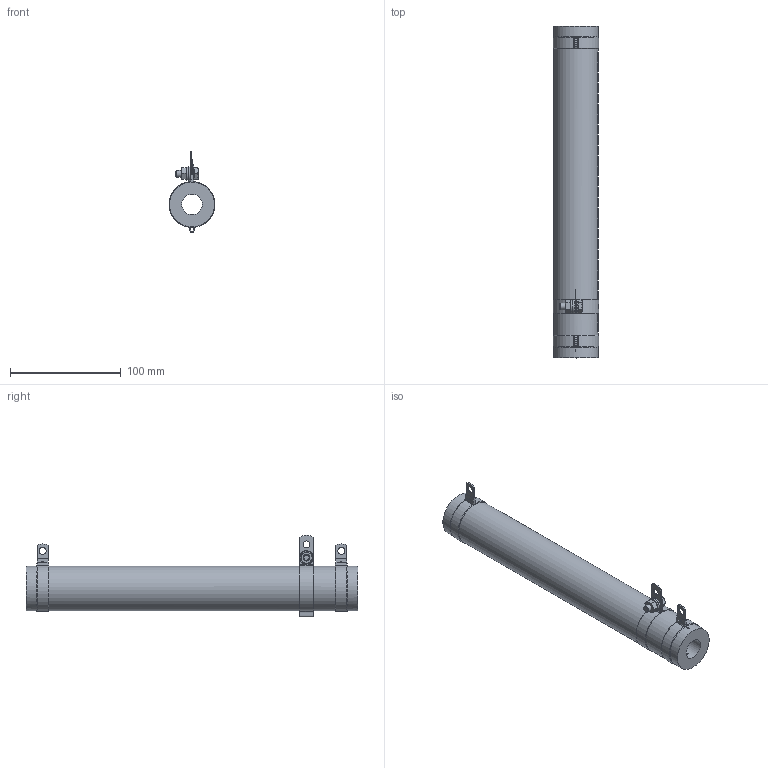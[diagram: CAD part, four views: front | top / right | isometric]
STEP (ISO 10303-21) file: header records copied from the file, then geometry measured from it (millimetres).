
FILE_DESCRIPTION(/* description */ (''),/* implementation_level */ '2;1');
FILE_NAME(/* name */ 'C:\_Vault\Dati\CATALOGO\RCA-RSA\R 25-1000\3D\RCAR 400.stp',/* time_stamp */ '2014-03-18T17:14:11+01:00',/* author */ ('stefano'),/* organization */ (''),/* preprocessor_version */ 'ST-DEVELOPER v15.2',/* originating_system */ 'Autodesk Inventor 2014',/* authorisation */ '');
FILE_SCHEMA (('AUTOMOTIVE_DESIGN { 1 0 10303 214 3 1 1 }'));
Length unit declared in the file: millimetre
Products named in the file (1): RCAR 400
Bounding box: 41.55 x 300 x 74.03 mm (x, y, z)
Volume: 309677.7 mm3; surface area: 62866.3 mm2
Topology: 1 solids, 1 shells, 803 faces, 1944 edges, 1280 vertices
Faces by surface type: plane 582, cylinder 185, cone 20, torus 12, bspline 4
Full cylindrical faces by diameter (mm): 3.2 x1, 6 x2, 6.2 x3, 6.3 x2, 6.4 x1, 8.88 x1, 12 x1, 12.5 x1, 18.5 x1, 40.5 x3
Entity records: 24499 total; most frequent: CARTESIAN_POINT 4414, DIRECTION 4117, ORIENTED_EDGE 3830, EDGE_CURVE 1915, AXIS2_PLACEMENT_3D 1469, VERTEX_POINT 1270, LINE 1179, VECTOR 1179
